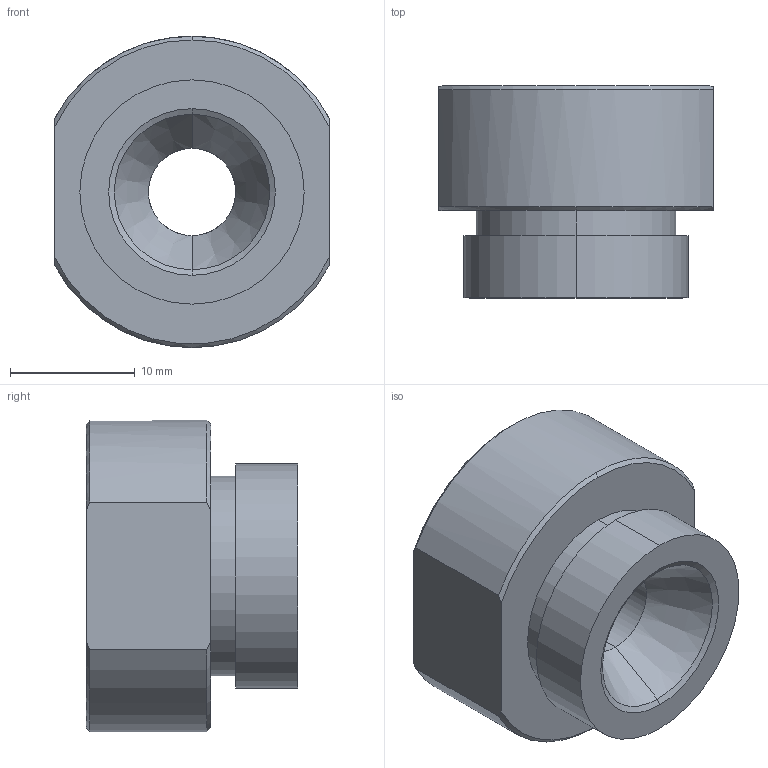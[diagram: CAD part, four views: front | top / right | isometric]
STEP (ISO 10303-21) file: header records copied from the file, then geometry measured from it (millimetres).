
FILE_DESCRIPTION (( 'STEP AP203' ), '1' );
FILE_NAME ('SW-PN-C6.STEP', '2022-04-06T01:33:09', ( '' ), ( '' ), 'SwSTEP 2.0', 'SolidWorks 2015', '' );
FILE_SCHEMA (( 'CONFIG_CONTROL_DESIGN' ));
Length unit declared in the file: millimetre
Products named in the file (2): SW-PN-C6
Bounding box: 22 x 17 x 25 mm (x, y, z)
Volume: 5479 mm3; surface area: 2449.3 mm2
Topology: 1 solids, 1 shells, 27 faces, 62 edges, 39 vertices
Faces by surface type: cone 12, cylinder 9, plane 6
Entity records: 966 total; most frequent: CARTESIAN_POINT 188, DIRECTION 139, ORIENTED_EDGE 124, EDGE_CURVE 62, AXIS2_PLACEMENT_3D 58, VERTEX_POINT 39, EDGE_LOOP 31, CIRCLE 29
